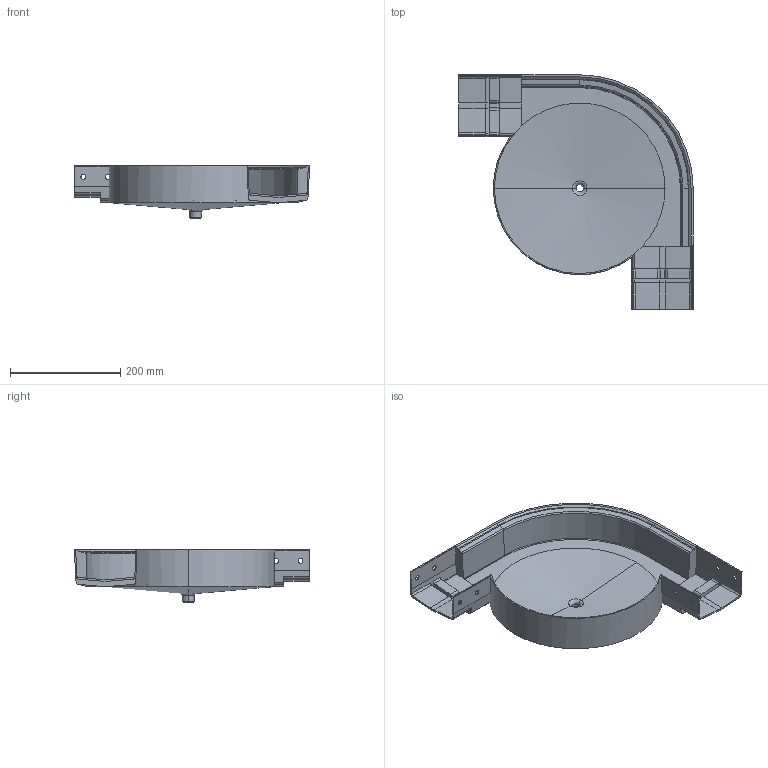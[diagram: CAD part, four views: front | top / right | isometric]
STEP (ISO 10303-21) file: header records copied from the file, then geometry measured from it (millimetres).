
FILE_DESCRIPTION (( 'STEP AP214' ), '1' );
FILE_NAME ('FSDH 90X107B.step', '2017-04-05T08:05:09', ( '' ), ( '' ), 'SwSTEP 2.0', 'SolidWorks 2015', '' );
FILE_SCHEMA (( 'AUTOMOTIVE_DESIGN' ));
Length unit declared in the file: millimetre
Products named in the file (1): FSDH 90X107B
Bounding box: 426.44 x 426.44 x 95.91 mm (x, y, z)
Volume: 614970.6 mm3; surface area: 438603.9 mm2
Topology: 1 solids, 1 shells, 199 faces, 560 edges, 358 vertices
Faces by surface type: plane 100, cylinder 73, cone 16, torus 10
Entity records: 6540 total; most frequent: CARTESIAN_POINT 1373, ORIENTED_EDGE 1120, DIRECTION 1046, EDGE_CURVE 560, VERTEX_POINT 358, VECTOR 356, LINE 356, AXIS2_PLACEMENT_3D 345
